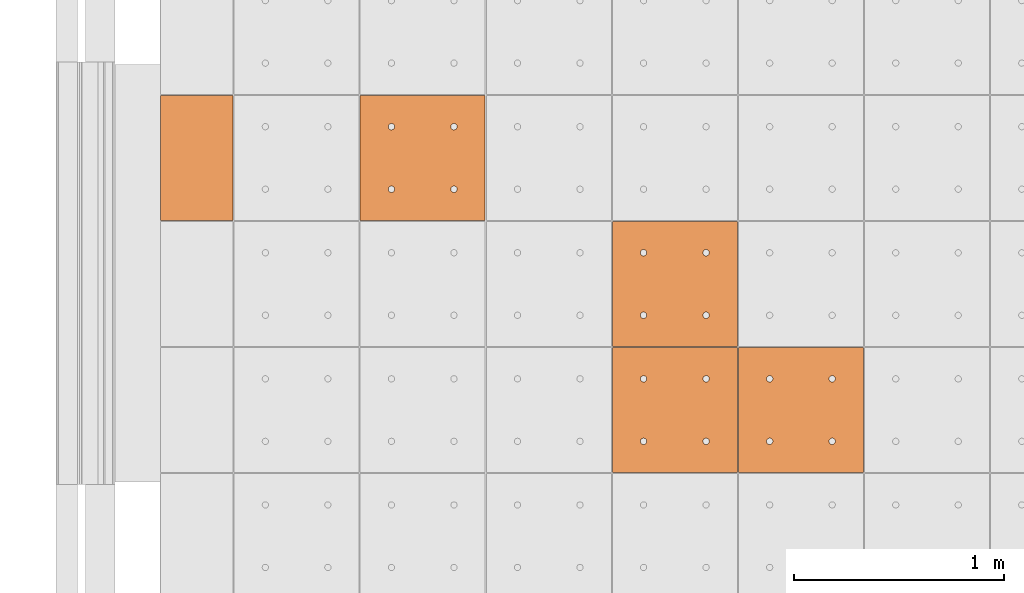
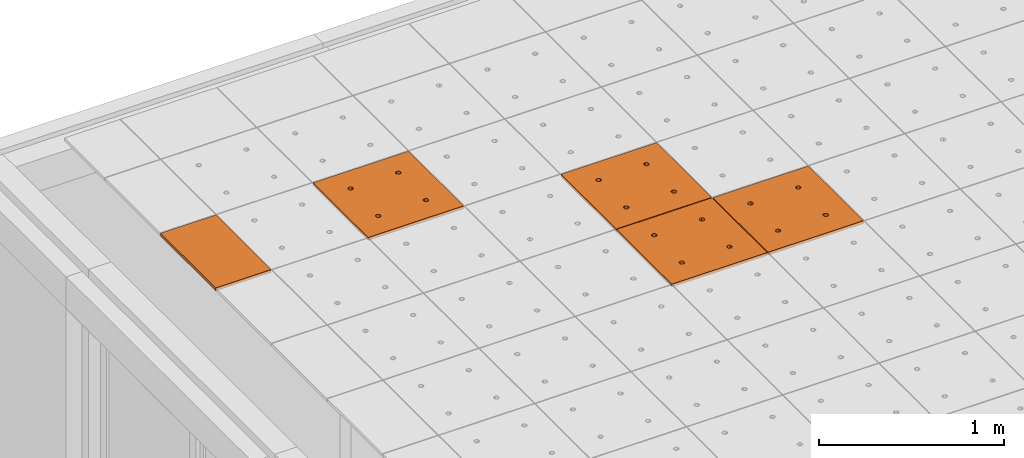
# One storey, part 247 of 338: 5 proxies, 1 element without a shape of its own.
"""IFC2X3 building model written with IfcOpenShell, lengths in millimetres."""

import ifcopenshell
import ifcopenshell.guid

model = None  # the IFC model being written
_history = None  # IfcOwnerHistory: only IFC2X3 demands one
_inside = {}  # id of a spatial element -> (the spatial element, [elements in it])
_under = {}  # id of a project, library or spatial element -> (it, [spatial elements below it])
_declared = {}  # id of a project -> (the project, [libraries it declares])
_typed = {}  # id of a type object -> (the type object, [elements of that type])
_made_of = {}  # id of a material, layer set ... -> (it, [elements and type objects made of it])


def new_model(schema):
    """Start an empty IFC model of exactly this schema.

    Asked for "IFC4X3", IfcOpenShell would pick the latest addendum, in which some entities
    have other attributes; the version numbers below select the first issue.
    IFC2X3 requires an IfcOwnerHistory on every rooted entity: one is made here for all.
    """
    global model, _history
    if schema == "IFC4X3":
        model = ifcopenshell.file(schema_version=(4, 3, 0, 0))
    else:
        model = ifcopenshell.file(schema=schema)
    _inside.clear()
    _under.clear()
    _declared.clear()
    _typed.clear()
    _made_of.clear()
    _history = None
    if model.schema == "IFC2X3":
        org = make("IfcOrganization", Name="unknown")
        user = make(
            "IfcPersonAndOrganization",
            ThePerson=make("IfcPerson", FamilyName="unknown"),
            TheOrganization=org,
        )
        app = make(
            "IfcApplication",
            ApplicationDeveloper=org,
            Version="unknown",
            ApplicationFullName="unknown",
            ApplicationIdentifier="unknown",
        )
        _history = make(
            "IfcOwnerHistory",
            OwningUser=user,
            OwningApplication=app,
            ChangeAction="ADDED",
            CreationDate=0,
        )
    return model


def make(cls, **values):
    """One entity of the class cls with the attributes given. An attribute that is None is left unset."""
    return model.create_entity(
        cls, **{name: value for name, value in values.items() if value is not None}
    )


def entity(cls, *values):
    """Any entity or typed value of the class cls, its attributes in the order of the schema. None: left unset."""
    e = model.create_entity(cls)
    for i, value in enumerate(values):
        if value is not None:
            e[i] = value
    return e


def rooted(cls, **values):
    """An entity with a GlobalId (a new one), such as an element, a storey or a relation."""
    return make(cls, GlobalId=ifcopenshell.guid.new(), OwnerHistory=_history, **values)


def si_unit(unit_type, name, prefix=None):
    """IfcSIUnit, for example si_unit("LENGTHUNIT", "METRE", prefix="MILLI")."""
    return make("IfcSIUnit", UnitType=unit_type, Prefix=prefix, Name=name)


def converted_unit(unit_type, name, factor, base, dimensions=None, offset=None):
    """IfcConversionBasedUnit, such as the inch: factor (a typed value) times the base unit."""
    return make(
        "IfcConversionBasedUnit"
        if offset is None
        else "IfcConversionBasedUnitWithOffset",
        ConversionOffset=offset,
        Dimensions=None
        if dimensions is None
        else entity("IfcDimensionalExponents", *dimensions),
        UnitType=unit_type,
        Name=name,
        ConversionFactor=make(
            "IfcMeasureWithUnit", ValueComponent=factor, UnitComponent=base
        ),
    )


def derived_unit(unit_type, elements):
    """IfcDerivedUnit: a product of units, each with its exponent."""
    return make(
        "IfcDerivedUnit",
        Elements=[
            make("IfcDerivedUnitElement", Unit=unit, Exponent=power)
            for unit, power in elements
        ],
        UnitType=unit_type,
    )


def money_unit(currency):
    """IfcMonetaryUnit."""
    return make("IfcMonetaryUnit", Currency=currency)


def assignment(units):
    """IfcUnitAssignment: the units of a project."""
    return None if units is None else make("IfcUnitAssignment", Units=units)


def point(xyz):
    """IfcCartesianPoint."""
    return None if xyz is None else make("IfcCartesianPoint", Coordinates=xyz)


def direction(xyz):
    """IfcDirection."""
    return None if xyz is None else make("IfcDirection", DirectionRatios=xyz)


def frame(location, z_axis=None, x_axis=None):
    """IfcAxis2Placement3D, a coordinate frame: its origin and axes. An axis left out is left unset."""
    return make(
        "IfcAxis2Placement3D",
        Location=point(location),
        Axis=direction(z_axis),
        RefDirection=direction(x_axis),
    )


def origin_with_axes():
    """The frame at (0, 0, 0) with the z axis (0, 0, 1) and the x axis (1, 0, 0) written out."""
    return frame((0.0, 0.0, 0.0), z_axis=(0.0, 0.0, 1.0), x_axis=(1.0, 0.0, 0.0))


def place(relative_to, where):
    """IfcLocalPlacement: puts the frame where relative to a parent placement (None: the world)."""
    return make(
        "IfcLocalPlacement", PlacementRelTo=relative_to, RelativePlacement=where
    )


def context(
    kind, dimensions, precision=None, world=None, true_north=None, identifier=None
):
    """IfcGeometricRepresentationContext, for example the 3D "Model" context."""
    return make(
        "IfcGeometricRepresentationContext",
        ContextIdentifier=identifier,
        ContextType=kind,
        CoordinateSpaceDimension=dimensions,
        Precision=precision,
        WorldCoordinateSystem=world,
        TrueNorth=true_north,
    )


def subcontext(parent, identifier, kind, view, scale=None):
    """IfcGeometricRepresentationSubContext, for example "Body" below "Model"."""
    return make(
        "IfcGeometricRepresentationSubContext",
        ContextIdentifier=identifier,
        ContextType=kind,
        ParentContext=parent,
        TargetScale=scale,
        TargetView=view,
    )


def project(units=None, contexts=None):
    """IfcProject with its units and contexts."""
    return rooted(
        "IfcProject",
        Name="project",
        RepresentationContexts=contexts,
        UnitsInContext=assignment(units),
    )


def spatial(cls, under=None, at=None, **own):
    """A site, building, storey or space (cls), placed at a placement, below another one or the project."""
    s = rooted(cls, ObjectPlacement=at, **own)
    if under is not None:
        _under.setdefault(under.id(), (under, []))[1].append(s)
    return s


def faces_of(points, faces, orient=None, outer=None):
    """IfcFace entities. A face is a list of loops; a loop is a list of indices into points, from 0.

    orient and outer hold one flag for each loop. By default every Orientation is true, the
    first loop of a face is its IfcFaceOuterBound and the others are IfcFaceBound.
    """
    made = []
    for i, loops in enumerate(faces):
        bounds = []
        for j, loop in enumerate(loops):
            is_outer = j == 0 if outer is None else outer[i][j]
            bounds.append(
                make(
                    "IfcFaceOuterBound" if is_outer else "IfcFaceBound",
                    Bound=make("IfcPolyLoop", Polygon=[points[k] for k in loop]),
                    Orientation=True if orient is None else orient[i][j],
                )
            )
        made.append(make("IfcFace", Bounds=bounds))
    return made


def faceted_brep(points, faces, orient=None, outer=None, voids=None):
    """IfcFacetedBrep: a solid bounded by flat faces; with voids (closed shells), ...WithVoids."""
    shared = [point(p) for p in points]
    hull = make("IfcClosedShell", CfsFaces=faces_of(shared, faces, orient, outer))
    if voids is None:
        return make("IfcFacetedBrep", Outer=hull)
    return make(
        "IfcFacetedBrepWithVoids",
        Outer=hull,
        Voids=[
            make(cls, CfsFaces=faces_of(shared, fs, o, b)) for cls, fs, o, b in voids
        ],
    )


def shape(context_of_items, identifier, shape_type, items):
    """IfcShapeRepresentation: the items that make up one representation, for example the "Body"."""
    return make(
        "IfcShapeRepresentation",
        ContextOfItems=context_of_items,
        RepresentationIdentifier=identifier,
        RepresentationType=shape_type,
        Items=items,
    )


def source(mapping_origin, context_of_items, identifier, shape_type, items):
    """IfcRepresentationMap: a shape defined once, which mapped items show again and again."""
    return make(
        "IfcRepresentationMap",
        MappingOrigin=mapping_origin,
        MappedRepresentation=shape(context_of_items, identifier, shape_type, items),
    )


def transform(
    local_origin,
    x_axis=None,
    y_axis=None,
    z_axis=None,
    scale=None,
    scale2=None,
    scale3=None,
    uniform=True,
):
    """IfcCartesianTransformationOperator3D, or its non-uniform kind. x_axis, y_axis, z_axis: its Axis1, 2, 3."""
    if uniform:
        return make(
            "IfcCartesianTransformationOperator3D",
            Axis1=direction(x_axis),
            Axis2=direction(y_axis),
            LocalOrigin=point(local_origin),
            Scale=scale,
            Axis3=direction(z_axis),
        )
    return make(
        "IfcCartesianTransformationOperator3DnonUniform",
        Axis1=direction(x_axis),
        Axis2=direction(y_axis),
        LocalOrigin=point(local_origin),
        Scale=scale,
        Axis3=direction(z_axis),
        Scale2=scale2,
        Scale3=scale3,
    )


def mapped(mapping_source, mapping_target):
    """IfcMappedItem: shows the shape of a source again, moved by a transform."""
    return make(
        "IfcMappedItem", MappingSource=mapping_source, MappingTarget=mapping_target
    )


def material(Name=None, Category=None):
    """IfcMaterial."""
    return make("IfcMaterial", Name=Name, Category=Category)


def made_of(thing, what):
    """Note that an element or type object is made of a material, layer set ...; save() writes the relation."""
    if what is not None:
        _made_of.setdefault(what.id(), (what, []))[1].append(thing)
    return thing


def type_object(cls, material=None, **own):
    """A type object (cls), such as IfcWallType, which elements share."""
    return made_of(rooted(cls, **own), material)


def type_shapes(of_type, sources):
    """Give a type object the sources (RepresentationMaps) that its elements show as mapped items."""
    of_type.RepresentationMaps = sources


def element(
    cls,
    number,
    at=None,
    inside=None,
    cuts=None,
    type_object=None,
    material=None,
    context=None,
    identifier="Body",
    shape_type=None,
    held_by="IfcProductDefinitionShape",
    body=None,
    shapes=None,
    **own,
):
    """One element of the class cls, such as IfcWall. Its Tag is "e" and its number.

    at: its placement. inside: the storey or other place that contains it. cuts: it is an
    opening in that element (IfcRelVoidsElement). A single representation is given by context,
    identifier, shape_type and body (its items); several are given by shapes. held_by: the class
    of the entity that holds the representations. save() writes the other relations.
    """
    e = rooted(cls, Tag="e%d" % number, ObjectPlacement=at, **own)
    if body is not None:
        shapes = [shape(context, identifier, shape_type, body)]
    if shapes is not None:
        e.Representation = make(held_by, Representations=shapes)
    if inside is not None:
        _inside.setdefault(inside.id(), (inside, []))[1].append(e)
    if cuts is not None:
        rooted(
            "IfcRelVoidsElement", RelatingBuildingElement=cuts, RelatedOpeningElement=e
        )
    if type_object is not None:
        _typed.setdefault(type_object.id(), (type_object, []))[1].append(e)
    return made_of(e, material)


def aggregate(whole, parts):
    """IfcRelAggregates: a whole, such as a stair, and the parts it consists of."""
    return rooted("IfcRelAggregates", RelatingObject=whole, RelatedObjects=parts)


def save(model, path):
    """Write the relations noted so far, then the file.

    IfcRelAggregates (storeys below a building ...), IfcRelContainedInSpatialStructure (elements
    in a storey), IfcRelDefinesByType, IfcRelAssociatesMaterial and IfcRelDeclares: one each for
    every whole, place, type object, material and project.
    """
    for whole, parts in _under.values():
        aggregate(whole, parts)
    for where, things in _inside.values():
        rooted(
            "IfcRelContainedInSpatialStructure",
            RelatedElements=things,
            RelatingStructure=where,
        )
    for kind, things in _typed.values():
        rooted("IfcRelDefinesByType", RelatedObjects=things, RelatingType=kind)
    for what, things in _made_of.values():
        rooted("IfcRelAssociatesMaterial", RelatedObjects=things, RelatingMaterial=what)
    for by, libraries in _declared.values():
        rooted("IfcRelDeclares", RelatingContext=by, RelatedDefinitions=libraries)
    model.write(path)


model = new_model("IFC2X3")

# Units and contexts
model_context = context("Model", 3, precision=0.01, world=origin_with_axes(), true_north=direction((0.0, 1.0)))
plan_context = context("Plan", 3, precision=0.01, world=origin_with_axes(), true_north=direction((0.0, 1.0)))
body_context = subcontext(model_context, "Body", "Model", "MODEL_VIEW")
ifc_project = project(units=[si_unit("LENGTHUNIT", "METRE", prefix="MILLI"), si_unit("AREAUNIT", "SQUARE_METRE"), si_unit("VOLUMEUNIT", "CUBIC_METRE"), converted_unit("PLANEANGLEUNIT", "DEGREE", entity("IfcPlaneAngleMeasure", 0.0174532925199), si_unit("PLANEANGLEUNIT", "RADIAN"), dimensions=[0, 0, 0, 0, 0, 0, 0]), money_unit("EUR"), converted_unit("TIMEUNIT", "Year", entity("IfcTimeMeasure", 31556926.0), si_unit("TIMEUNIT", "SECOND"), dimensions=[0, 0, 1, 0, 0, 0, 0]), si_unit("MASSUNIT", "GRAM", prefix="KILO"), si_unit("THERMODYNAMICTEMPERATUREUNIT", "DEGREE_CELSIUS"), si_unit("LUMINOUSINTENSITYUNIT", "LUMEN"), si_unit("ENERGYUNIT", "JOULE", prefix="MEGA"), derived_unit("THERMALCONDUCTANCEUNIT", [(si_unit("POWERUNIT", "WATT"), 1), (si_unit("LENGTHUNIT", "METRE"), -1), (si_unit("THERMODYNAMICTEMPERATUREUNIT", "KELVIN"), -1)]), derived_unit("SPECIFICHEATCAPACITYUNIT", [(si_unit("ENERGYUNIT", "JOULE"), 1), (si_unit("MASSUNIT", "GRAM", prefix="KILO"), -1), (si_unit("THERMODYNAMICTEMPERATUREUNIT", "KELVIN"), -1)]), derived_unit("MASSDENSITYUNIT", [(si_unit("MASSUNIT", "GRAM", prefix="KILO"), 1), (si_unit("VOLUMEUNIT", "CUBIC_METRE"), -1)])], contexts=[model_context, plan_context])

# Site, building, storey
site_placement = place(None, origin_with_axes())
site = spatial("IfcSite", under=ifc_project, at=site_placement, Name="Fortuinstraat Woensdrecht", CompositionType="ELEMENT")
building_placement = place(site_placement, origin_with_axes())
building = spatial("IfcBuilding", under=site, at=building_placement, Name="IKC Fortuna", CompositionType="ELEMENT")
storey_placement = place(building_placement, origin_with_axes())
storey = spatial("IfcBuildingStorey", under=building, at=storey_placement, Name="00 begane grond", CompositionType="ELEMENT", Elevation=0.0)

# Covering, proxies
covering_type = type_object("IfcCoveringType", Name="Curtain Wall Type", PredefinedType="CEILING")
covering_placement = place(storey_placement, frame((15059.4416165, 34009.703821, 3210.0), z_axis=(0.0, 0.0, 1.0), x_axis=(1.0, 0.0, 0.0)))
covering = element("IfcCovering", 1, at=covering_placement, inside=storey, type_object=covering_type, Name="45_Plafondafwerking_P01", PredefinedType="CEILING")
ifc_material = material(Name="Gipsplaat")
building_element_proxy_type_1 = type_object("IfcBuildingElementProxyType", Name="Distinct Panel 600 x 600 x 20", PredefinedType="NOTDEFINED")
shared_shape_1 = source(origin_with_axes(), body_context, "Body", "Brep", [
    faceted_brep([(2.49999999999, 2.49999999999, -10.0), (300.0, 2.49999999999, -10.0), (300.0, 2.49999999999, 10.0), (2.49999999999, 2.49999999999, 10.0), (2.49999999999, 300.0, -10.0), (2.49999999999, 597.5, -10.0), (300.0, 597.5, -10.0), (597.5, 597.5, -10.0), (597.5, 300.0, -10.0), (597.5, 2.49999999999, -10.0), (166.25, 450.06232995, -10.0), (165.79423259, 452.64711538, -10.0), (164.896546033, 455.11348892, -10.0), (163.58421608, 457.38651108, -10.0), (161.897117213, 459.39711721, -10.0), (159.886511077, 461.08421608, -10.0), (157.613488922, 462.39654603, -10.0), (155.147115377, 463.29423259, -10.0), (152.562329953, 463.75, -10.0), (149.937670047, 463.75, -10.0), (147.352884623, 463.29423259, -10.0), (144.886511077, 462.39654603, -10.0), (142.613488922, 461.08421608, -10.0), (140.602882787, 459.39711721, -10.0), (138.91578392, 457.38651108, -10.0), (137.603453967, 455.11348892, -10.0), (136.705767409, 452.64711538, -10.0), (136.25, 450.06232995, -10.0), (136.25, 448.75, -10.0), (136.25, 447.43767005, -10.0), (136.705767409, 444.85288462, -10.0), (137.603453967, 442.38651108, -10.0), (138.91578392, 440.11348892, -10.0), (140.602882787, 438.10288279, -10.0), (142.613488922, 436.41578392, -10.0), (144.886511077, 435.10345397, -10.0), (147.352884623, 434.20576741, -10.0), (149.937670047, 433.75, -10.0), (152.562329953, 433.75, -10.0), (155.147115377, 434.20576741, -10.0), (157.613488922, 435.10345397, -10.0), (159.886511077, 436.41578392, -10.0), (161.897117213, 438.10288279, -10.0), (163.58421608, 440.11348892, -10.0), (164.896546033, 442.38651108, -10.0), (165.79423259, 444.85288462, -10.0), (166.25, 447.43767005, -10.0), (463.75, 450.06232995, -10.0), (463.29423259, 452.64711538, -10.0), (462.396546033, 455.11348892, -10.0), (461.08421608, 457.38651108, -10.0), (459.397117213, 459.39711721, -10.0), (457.386511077, 461.08421608, -10.0), (455.113488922, 462.39654603, -10.0), (452.647115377, 463.29423259, -10.0), (450.062329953, 463.75, -10.0), (447.437670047, 463.75, -10.0), (444.852884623, 463.29423259, -10.0), (442.386511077, 462.39654603, -10.0), (440.113488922, 461.08421608, -10.0), (438.102882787, 459.39711721, -10.0), (436.41578392, 457.38651108, -10.0), (435.103453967, 455.11348892, -10.0), (434.205767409, 452.64711538, -10.0), (433.75, 450.06232995, -10.0), (433.75, 448.75, -10.0), (433.75, 447.43767005, -10.0), (434.205767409, 444.85288462, -10.0), (435.103453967, 442.38651108, -10.0), (436.41578392, 440.11348892, -10.0), (438.102882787, 438.10288279, -10.0), (440.113488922, 436.41578392, -10.0), (442.386511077, 435.10345397, -10.0), (444.852884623, 434.20576741, -10.0), (447.437670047, 433.75, -10.0), (450.062329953, 433.75, -10.0), (452.647115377, 434.20576741, -10.0), (455.113488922, 435.10345397, -10.0), (457.386511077, 436.41578392, -10.0), (459.397117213, 438.10288279, -10.0), (461.08421608, 440.11348892, -10.0), (462.396546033, 442.38651108, -10.0), (463.29423259, 444.85288462, -10.0), (463.75, 447.43767005, -10.0), (463.75, 152.56232995, -10.0), (463.29423259, 155.14711538, -10.0), (462.396546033, 157.61348892, -10.0), (461.08421608, 159.88651108, -10.0), (459.397117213, 161.89711721, -10.0), (457.386511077, 163.58421608, -10.0), (455.113488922, 164.89654603, -10.0), (452.647115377, 165.79423259, -10.0), (450.062329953, 166.25, -10.0), (447.437670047, 166.25, -10.0), (444.852884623, 165.79423259, -10.0), (442.386511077, 164.89654603, -10.0), (440.113488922, 163.58421608, -10.0), (438.102882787, 161.89711721, -10.0), (436.41578392, 159.88651108, -10.0), (435.103453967, 157.61348892, -10.0), (434.205767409, 155.14711538, -10.0), (433.75, 152.56232995, -10.0), (433.75, 151.25, -10.0), (433.75, 149.93767005, -10.0), (434.205767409, 147.35288462, -10.0), (435.103453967, 144.88651108, -10.0), (436.41578392, 142.61348892, -10.0), (438.102882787, 140.60288279, -10.0), (440.113488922, 138.91578392, -10.0), (442.386511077, 137.60345397, -10.0), (444.852884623, 136.70576741, -10.0), (447.437670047, 136.25, -10.0), (450.062329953, 136.25, -10.0), (452.647115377, 136.70576741, -10.0), (455.113488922, 137.60345397, -10.0), (457.386511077, 138.91578392, -10.0), (459.397117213, 140.60288279, -10.0), (461.08421608, 142.61348892, -10.0), (462.396546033, 144.88651108, -10.0), (463.29423259, 147.35288462, -10.0), (463.75, 149.93767005, -10.0), (166.25, 152.56232995, -10.0), (165.79423259, 155.14711538, -10.0), (164.896546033, 157.61348892, -10.0), (163.58421608, 159.88651108, -10.0), (161.897117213, 161.89711721, -10.0), (159.886511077, 163.58421608, -10.0), (157.613488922, 164.89654603, -10.0), (155.147115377, 165.79423259, -10.0), (152.562329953, 166.25, -10.0), (149.937670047, 166.25, -10.0), (147.352884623, 165.79423259, -10.0), (144.886511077, 164.89654603, -10.0), (142.613488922, 163.58421608, -10.0), (140.602882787, 161.89711721, -10.0), (138.91578392, 159.88651108, -10.0), (137.603453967, 157.61348892, -10.0), (136.705767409, 155.14711538, -10.0), (136.25, 152.56232995, -10.0), (136.25, 151.25, -10.0), (136.25, 149.93767005, -10.0), (136.705767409, 147.35288462, -10.0), (137.603453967, 144.88651108, -10.0), (138.91578392, 142.61348892, -10.0), (140.602882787, 140.60288279, -10.0), (142.613488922, 138.91578392, -10.0), (144.886511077, 137.60345397, -10.0), (147.352884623, 136.70576741, -10.0), (149.937670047, 136.25, -10.0), (152.562329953, 136.25, -10.0), (155.147115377, 136.70576741, -10.0), (157.613488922, 137.60345397, -10.0), (159.886511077, 138.91578392, -10.0), (161.897117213, 140.60288279, -10.0), (163.58421608, 142.61348892, -10.0), (164.896546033, 144.88651108, -10.0), (165.79423259, 147.35288462, -10.0), (166.25, 149.93767005, -10.0), (597.5, 2.49999999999, 10.0), (597.5, 300.0, 10.0), (597.5, 597.5, 10.0), (300.0, 597.5, 10.0), (2.49999999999, 597.5, 10.0), (2.49999999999, 300.0, 10.0), (166.25, 450.06232995, 10.0), (166.25, 447.43767005, 10.0), (165.79423259, 444.85288462, 10.0), (164.896546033, 442.38651108, 10.0), (163.58421608, 440.11348892, 10.0), (161.897117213, 438.10288279, 10.0), (159.886511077, 436.41578392, 10.0), (157.613488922, 435.10345397, 10.0), (155.147115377, 434.20576741, 10.0), (152.562329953, 433.75, 10.0), (149.937670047, 433.75, 10.0), (147.352884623, 434.20576741, 10.0), (144.886511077, 435.10345397, 10.0), (142.613488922, 436.41578392, 10.0), (140.602882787, 438.10288279, 10.0), (138.91578392, 440.11348892, 10.0), (137.603453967, 442.38651108, 10.0), (136.705767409, 444.85288462, 10.0), (136.25, 447.43767005, 10.0), (136.25, 448.75, 10.0), (136.25, 450.06232995, 10.0), (136.705767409, 452.64711538, 10.0), (137.603453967, 455.11348892, 10.0), (138.91578392, 457.38651108, 10.0), (140.602882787, 459.39711721, 10.0), (142.613488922, 461.08421608, 10.0), (144.886511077, 462.39654603, 10.0), (147.352884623, 463.29423259, 10.0), (149.937670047, 463.75, 10.0), (152.562329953, 463.75, 10.0), (155.147115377, 463.29423259, 10.0), (157.613488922, 462.39654603, 10.0), (159.886511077, 461.08421608, 10.0), (161.897117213, 459.39711721, 10.0), (163.58421608, 457.38651108, 10.0), (164.896546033, 455.11348892, 10.0), (165.79423259, 452.64711538, 10.0), (463.75, 450.06232995, 10.0), (463.75, 447.43767005, 10.0), (463.29423259, 444.85288462, 10.0), (462.396546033, 442.38651108, 10.0), (461.08421608, 440.11348892, 10.0), (459.397117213, 438.10288279, 10.0), (457.386511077, 436.41578392, 10.0), (455.113488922, 435.10345397, 10.0), (452.647115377, 434.20576741, 10.0), (450.062329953, 433.75, 10.0), (447.437670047, 433.75, 10.0), (444.852884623, 434.20576741, 10.0), (442.386511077, 435.10345397, 10.0), (440.113488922, 436.41578392, 10.0), (438.102882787, 438.10288279, 10.0), (436.41578392, 440.11348892, 10.0), (435.103453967, 442.38651108, 10.0), (434.205767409, 444.85288462, 10.0), (433.75, 447.43767005, 10.0), (433.75, 448.75, 10.0), (433.75, 450.06232995, 10.0), (434.205767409, 452.64711538, 10.0), (435.103453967, 455.11348892, 10.0), (436.41578392, 457.38651108, 10.0), (438.102882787, 459.39711721, 10.0), (440.113488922, 461.08421608, 10.0), (442.386511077, 462.39654603, 10.0), (444.852884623, 463.29423259, 10.0), (447.437670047, 463.75, 10.0), (450.062329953, 463.75, 10.0), (452.647115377, 463.29423259, 10.0), (455.113488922, 462.39654603, 10.0), (457.386511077, 461.08421608, 10.0), (459.397117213, 459.39711721, 10.0), (461.08421608, 457.38651108, 10.0), (462.396546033, 455.11348892, 10.0), (463.29423259, 452.64711538, 10.0), (463.75, 152.56232995, 10.0), (463.75, 149.93767005, 10.0), (463.29423259, 147.35288462, 10.0), (462.396546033, 144.88651108, 10.0), (461.08421608, 142.61348892, 10.0), (459.397117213, 140.60288279, 10.0), (457.386511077, 138.91578392, 10.0), (455.113488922, 137.60345397, 10.0), (452.647115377, 136.70576741, 10.0), (450.062329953, 136.25, 10.0), (447.437670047, 136.25, 10.0), (444.852884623, 136.70576741, 10.0), (442.386511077, 137.60345397, 10.0), (440.113488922, 138.91578392, 10.0), (438.102882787, 140.60288279, 10.0), (436.41578392, 142.61348892, 10.0), (435.103453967, 144.88651108, 10.0), (434.205767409, 147.35288462, 10.0), (433.75, 149.93767005, 10.0), (433.75, 151.25, 10.0), (433.75, 152.56232995, 10.0), (434.205767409, 155.14711538, 10.0), (435.103453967, 157.61348892, 10.0), (436.41578392, 159.88651108, 10.0), (438.102882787, 161.89711721, 10.0), (440.113488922, 163.58421608, 10.0), (442.386511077, 164.89654603, 10.0), (444.852884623, 165.79423259, 10.0), (447.437670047, 166.25, 10.0), (450.062329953, 166.25, 10.0), (452.647115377, 165.79423259, 10.0), (455.113488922, 164.89654603, 10.0), (457.386511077, 163.58421608, 10.0), (459.397117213, 161.89711721, 10.0), (461.08421608, 159.88651108, 10.0), (462.396546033, 157.61348892, 10.0), (463.29423259, 155.14711538, 10.0), (166.25, 152.56232995, 10.0), (166.25, 149.93767005, 10.0), (165.79423259, 147.35288462, 10.0), (164.896546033, 144.88651108, 10.0), (163.58421608, 142.61348892, 10.0), (161.897117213, 140.60288279, 10.0), (159.886511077, 138.91578392, 10.0), (157.613488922, 137.60345397, 10.0), (155.147115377, 136.70576741, 10.0), (152.562329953, 136.25, 10.0), (149.937670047, 136.25, 10.0), (147.352884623, 136.70576741, 10.0), (144.886511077, 137.60345397, 10.0), (142.613488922, 138.91578392, 10.0), (140.602882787, 140.60288279, 10.0), (138.91578392, 142.61348892, 10.0), (137.603453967, 144.88651108, 10.0), (136.705767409, 147.35288462, 10.0), (136.25, 149.93767005, 10.0), (136.25, 151.25, 10.0), (136.25, 152.56232995, 10.0), (136.705767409, 155.14711538, 10.0), (137.603453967, 157.61348892, 10.0), (138.91578392, 159.88651108, 10.0), (140.602882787, 161.89711721, 10.0), (142.613488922, 163.58421608, 10.0), (144.886511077, 164.89654603, 10.0), (147.352884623, 165.79423259, 10.0), (149.937670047, 166.25, 10.0), (152.562329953, 166.25, 10.0), (155.147115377, 165.79423259, 10.0), (157.613488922, 164.89654603, 10.0), (159.886511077, 163.58421608, 10.0), (161.897117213, 161.89711721, 10.0), (163.58421608, 159.88651108, 10.0), (164.896546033, 157.61348892, 10.0), (165.79423259, 155.14711538, 10.0)], [[[0, 1, 2, 3]], [[0, 4, 5, 6, 7, 8, 9, 1], [10, 11, 12, 13, 14, 15, 16, 17, 18, 19, 20, 21, 22, 23, 24, 25, 26, 27, 28, 29, 30, 31, 32, 33, 34, 35, 36, 37, 38, 39, 40, 41, 42, 43, 44, 45, 46], [47, 48, 49, 50, 51, 52, 53, 54, 55, 56, 57, 58, 59, 60, 61, 62, 63, 64, 65, 66, 67, 68, 69, 70, 71, 72, 73, 74, 75, 76, 77, 78, 79, 80, 81, 82, 83], [84, 85, 86, 87, 88, 89, 90, 91, 92, 93, 94, 95, 96, 97, 98, 99, 100, 101, 102, 103, 104, 105, 106, 107, 108, 109, 110, 111, 112, 113, 114, 115, 116, 117, 118, 119, 120], [121, 122, 123, 124, 125, 126, 127, 128, 129, 130, 131, 132, 133, 134, 135, 136, 137, 138, 139, 140, 141, 142, 143, 144, 145, 146, 147, 148, 149, 150, 151, 152, 153, 154, 155, 156, 157]], [[1, 9, 158, 2]], [[3, 2, 158, 159, 160, 161, 162, 163], [164, 165, 166, 167, 168, 169, 170, 171, 172, 173, 174, 175, 176, 177, 178, 179, 180, 181, 182, 183, 184, 185, 186, 187, 188, 189, 190, 191, 192, 193, 194, 195, 196, 197, 198, 199, 200], [201, 202, 203, 204, 205, 206, 207, 208, 209, 210, 211, 212, 213, 214, 215, 216, 217, 218, 219, 220, 221, 222, 223, 224, 225, 226, 227, 228, 229, 230, 231, 232, 233, 234, 235, 236, 237], [238, 239, 240, 241, 242, 243, 244, 245, 246, 247, 248, 249, 250, 251, 252, 253, 254, 255, 256, 257, 258, 259, 260, 261, 262, 263, 264, 265, 266, 267, 268, 269, 270, 271, 272, 273, 274], [275, 276, 277, 278, 279, 280, 281, 282, 283, 284, 285, 286, 287, 288, 289, 290, 291, 292, 293, 294, 295, 296, 297, 298, 299, 300, 301, 302, 303, 304, 305, 306, 307, 308, 309, 310, 311]], [[4, 0, 3, 163]], [[5, 4, 163, 162]], [[6, 5, 162, 161]], [[7, 6, 161, 160]], [[8, 7, 160, 159]], [[9, 8, 159, 158]], [[11, 10, 164, 200]], [[12, 11, 200, 199]], [[13, 12, 199, 198]], [[14, 13, 198, 197]], [[15, 14, 197, 196]], [[16, 15, 196, 195]], [[17, 16, 195, 194]], [[18, 17, 194, 193]], [[19, 18, 193, 192]], [[20, 19, 192, 191]], [[21, 20, 191, 190]], [[22, 21, 190, 189]], [[23, 22, 189, 188]], [[24, 23, 188, 187]], [[25, 24, 187, 186]], [[26, 25, 186, 185]], [[27, 26, 185, 184]], [[28, 27, 184, 183]], [[29, 28, 183, 182]], [[30, 29, 182, 181]], [[31, 30, 181, 180]], [[32, 31, 180, 179]], [[33, 32, 179, 178]], [[34, 33, 178, 177]], [[35, 34, 177, 176]], [[36, 35, 176, 175]], [[37, 36, 175, 174]], [[38, 37, 174, 173]], [[39, 38, 173, 172]], [[40, 39, 172, 171]], [[41, 40, 171, 170]], [[42, 41, 170, 169]], [[43, 42, 169, 168]], [[44, 43, 168, 167]], [[45, 44, 167, 166]], [[46, 45, 166, 165]], [[10, 46, 165, 164]], [[48, 47, 201, 237]], [[49, 48, 237, 236]], [[50, 49, 236, 235]], [[51, 50, 235, 234]], [[52, 51, 234, 233]], [[53, 52, 233, 232]], [[54, 53, 232, 231]], [[55, 54, 231, 230]], [[56, 55, 230, 229]], [[57, 56, 229, 228]], [[58, 57, 228, 227]], [[59, 58, 227, 226]], [[60, 59, 226, 225]], [[61, 60, 225, 224]], [[62, 61, 224, 223]], [[63, 62, 223, 222]], [[64, 63, 222, 221]], [[65, 64, 221, 220]], [[66, 65, 220, 219]], [[67, 66, 219, 218]], [[68, 67, 218, 217]], [[69, 68, 217, 216]], [[70, 69, 216, 215]], [[71, 70, 215, 214]], [[72, 71, 214, 213]], [[73, 72, 213, 212]], [[74, 73, 212, 211]], [[75, 74, 211, 210]], [[76, 75, 210, 209]], [[77, 76, 209, 208]], [[78, 77, 208, 207]], [[79, 78, 207, 206]], [[80, 79, 206, 205]], [[81, 80, 205, 204]], [[82, 81, 204, 203]], [[83, 82, 203, 202]], [[47, 83, 202, 201]], [[85, 84, 238, 274]], [[86, 85, 274, 273]], [[87, 86, 273, 272]], [[88, 87, 272, 271]], [[89, 88, 271, 270]], [[90, 89, 270, 269]], [[91, 90, 269, 268]], [[92, 91, 268, 267]], [[93, 92, 267, 266]], [[94, 93, 266, 265]], [[95, 94, 265, 264]], [[96, 95, 264, 263]], [[97, 96, 263, 262]], [[98, 97, 262, 261]], [[99, 98, 261, 260]], [[100, 99, 260, 259]], [[101, 100, 259, 258]], [[102, 101, 258, 257]], [[103, 102, 257, 256]], [[104, 103, 256, 255]], [[105, 104, 255, 254]], [[106, 105, 254, 253]], [[107, 106, 253, 252]], [[108, 107, 252, 251]], [[109, 108, 251, 250]], [[110, 109, 250, 249]], [[111, 110, 249, 248]], [[112, 111, 248, 247]], [[113, 112, 247, 246]], [[114, 113, 246, 245]], [[115, 114, 245, 244]], [[116, 115, 244, 243]], [[117, 116, 243, 242]], [[118, 117, 242, 241]], [[119, 118, 241, 240]], [[120, 119, 240, 239]], [[84, 120, 239, 238]], [[122, 121, 275, 311]], [[123, 122, 311, 310]], [[124, 123, 310, 309]], [[125, 124, 309, 308]], [[126, 125, 308, 307]], [[127, 126, 307, 306]], [[128, 127, 306, 305]], [[129, 128, 305, 304]], [[130, 129, 304, 303]], [[131, 130, 303, 302]], [[132, 131, 302, 301]], [[133, 132, 301, 300]], [[134, 133, 300, 299]], [[135, 134, 299, 298]], [[136, 135, 298, 297]], [[137, 136, 297, 296]], [[138, 137, 296, 295]], [[139, 138, 295, 294]], [[140, 139, 294, 293]], [[141, 140, 293, 292]], [[142, 141, 292, 291]], [[143, 142, 291, 290]], [[144, 143, 290, 289]], [[145, 144, 289, 288]], [[146, 145, 288, 287]], [[147, 146, 287, 286]], [[148, 147, 286, 285]], [[149, 148, 285, 284]], [[150, 149, 284, 283]], [[151, 150, 283, 282]], [[152, 151, 282, 281]], [[153, 152, 281, 280]], [[154, 153, 280, 279]], [[155, 154, 279, 278]], [[156, 155, 278, 277]], [[157, 156, 277, 276]], [[121, 157, 276, 275]]]),
])
type_shapes(building_element_proxy_type_1, [shared_shape_1])
proxy_1_placement = place(covering_placement, frame((0.0, 0.0, 1.7630341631e-10), z_axis=(0.0, 0.0, 1.0), x_axis=(1.0, 0.0, 0.0)))
proxy_1 = element("IfcBuildingElementProxy", 2, at=proxy_1_placement, type_object=building_element_proxy_type_1, material=ifc_material, Name="__Panel-D", context=body_context, shape_type="MappedRepresentation", body=[
    mapped(shared_shape_1, transform((300.0, 300.0, 0.0), x_axis=(-1.0, 0.0, 0.0), y_axis=(0.0, -1.0, 0.0), z_axis=(0.0, 0.0, 1.0))),
])
proxy_2_placement = place(covering_placement, frame((1800.0, -1200.0, 1.172395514e-10), z_axis=(0.0, 0.0, 1.0), x_axis=(1.0, 0.0, 0.0)))
proxy_2 = element("IfcBuildingElementProxy", 3, at=proxy_2_placement, type_object=building_element_proxy_type_1, material=ifc_material, Name="__Panel-D", context=body_context, shape_type="MappedRepresentation", body=[
    mapped(shared_shape_1, transform((300.0, 300.0, 0.0), x_axis=(-1.0, 0.0, 0.0), y_axis=(0.0, -1.0, 0.0), z_axis=(0.0, 0.0, 1.0))),
])
proxy_3_placement = place(covering_placement, frame((1200.0, -600.0, 1.37223565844e-10), z_axis=(0.0, 0.0, 1.0), x_axis=(1.0, 0.0, 0.0)))
proxy_3 = element("IfcBuildingElementProxy", 4, at=proxy_3_placement, type_object=building_element_proxy_type_1, material=ifc_material, Name="__Panel-D", context=body_context, shape_type="MappedRepresentation", body=[
    mapped(shared_shape_1, transform((300.0, 300.0, 0.0), x_axis=(-1.0, 0.0, 0.0), y_axis=(0.0, -1.0, 0.0), z_axis=(0.0, 0.0, 1.0))),
])
proxy_4_placement = place(covering_placement, frame((1200.0, -1200.0, 1.37223565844e-10), z_axis=(0.0, 0.0, 1.0), x_axis=(1.0, 0.0, 0.0)))
proxy_4 = element("IfcBuildingElementProxy", 5, at=proxy_4_placement, type_object=building_element_proxy_type_1, material=ifc_material, Name="__Panel-D", context=body_context, shape_type="MappedRepresentation", body=[
    mapped(shared_shape_1, transform((300.0, 300.0, 0.0), x_axis=(-1.0, 0.0, 0.0), y_axis=(0.0, -1.0, 0.0), z_axis=(0.0, 0.0, 1.0))),
])
building_element_proxy_type_2 = type_object("IfcBuildingElementProxyType", Name="Main Panel 350 x 600 x 20", PredefinedType="NOTDEFINED")
shared_shape_2 = source(origin_with_axes(), body_context, "Body", "Brep", [
    faceted_brep([(2.49999837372, 2.5, -10.0), (347.50666814, 2.49999999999, -10.0), (347.50666814, 2.49999999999, 10.0), (2.49999837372, 2.5, 10.0), (2.49999837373, 597.5, -10.0), (347.50666814, 597.5, -10.0), (347.50666814, 597.5, 10.0), (2.49999837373, 597.5, 10.0)], [[[0, 1, 2, 3]], [[0, 4, 5, 1]], [[1, 5, 6, 2]], [[3, 2, 6, 7]], [[4, 0, 3, 7]], [[5, 4, 7, 6]]]),
])
type_shapes(building_element_proxy_type_2, [shared_shape_2])
proxy_5_placement = place(covering_placement, frame((-1075.00333407, 0.0, 2.11386463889e-10), z_axis=(0.0, 0.0, 1.0), x_axis=(1.0, 0.0, 0.0)))
proxy_5 = element("IfcBuildingElementProxy", 6, at=proxy_5_placement, type_object=building_element_proxy_type_2, material=ifc_material, Name="__Panel-D", context=body_context, shape_type="MappedRepresentation", body=[
    mapped(shared_shape_2, transform((175.00333407, 300.0, 0.0), x_axis=(-1.0, 0.0, 0.0), y_axis=(0.0, -1.0, 0.0), z_axis=(0.0, 0.0, 1.0))),
])
aggregate(covering, [proxy_1, proxy_5, proxy_2, proxy_3, proxy_4])

save(model, "model.ifc")
